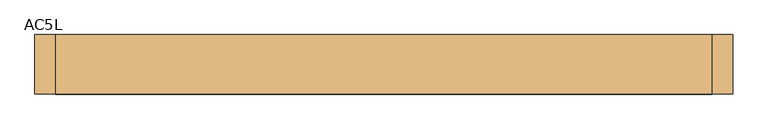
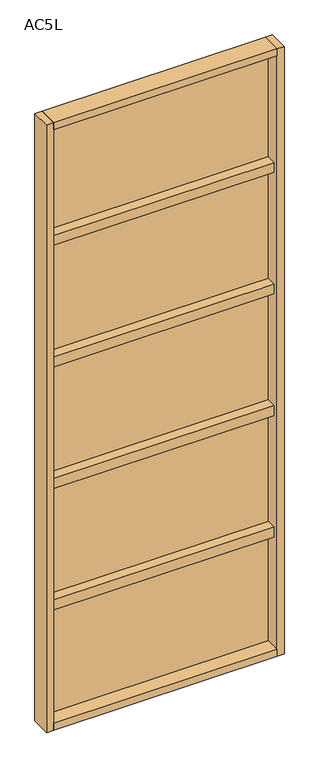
"""IFC4 building model written with IfcOpenShell, lengths in millimetres: door geometry, Mobiliário_Mobiliário de Escritório_Painel Lambri - AC5L (Completo)_Marelli : AC5L."""

import ifcopenshell
import ifcopenshell.guid

model = None  # the IFC model being written
_history = None  # IfcOwnerHistory: only IFC2X3 demands one
_inside = {}  # id of a spatial element -> (the spatial element, [elements in it])
_under = {}  # id of a project, library or spatial element -> (it, [spatial elements below it])
_declared = {}  # id of a project -> (the project, [libraries it declares])
_typed = {}  # id of a type object -> (the type object, [elements of that type])
_made_of = {}  # id of a material, layer set ... -> (it, [elements and type objects made of it])


def new_model(schema):
    """Start an empty IFC model of exactly this schema.

    Asked for "IFC4X3", IfcOpenShell would pick the latest addendum, in which some entities
    have other attributes; the version numbers below select the first issue.
    IFC2X3 requires an IfcOwnerHistory on every rooted entity: one is made here for all.
    """
    global model, _history
    if schema == "IFC4X3":
        model = ifcopenshell.file(schema_version=(4, 3, 0, 0))
    else:
        model = ifcopenshell.file(schema=schema)
    _inside.clear()
    _under.clear()
    _declared.clear()
    _typed.clear()
    _made_of.clear()
    _history = None
    if model.schema == "IFC2X3":
        org = make("IfcOrganization", Name="unknown")
        user = make(
            "IfcPersonAndOrganization",
            ThePerson=make("IfcPerson", FamilyName="unknown"),
            TheOrganization=org,
        )
        app = make(
            "IfcApplication",
            ApplicationDeveloper=org,
            Version="unknown",
            ApplicationFullName="unknown",
            ApplicationIdentifier="unknown",
        )
        _history = make(
            "IfcOwnerHistory",
            OwningUser=user,
            OwningApplication=app,
            ChangeAction="ADDED",
            CreationDate=0,
        )
    return model


def make(cls, **values):
    """One entity of the class cls with the attributes given. An attribute that is None is left unset."""
    return model.create_entity(
        cls, **{name: value for name, value in values.items() if value is not None}
    )


def rooted(cls, **values):
    """An entity with a GlobalId (a new one), such as an element, a storey or a relation."""
    return make(cls, GlobalId=ifcopenshell.guid.new(), OwnerHistory=_history, **values)


def si_unit(unit_type, name, prefix=None):
    """IfcSIUnit, for example si_unit("LENGTHUNIT", "METRE", prefix="MILLI")."""
    return make("IfcSIUnit", UnitType=unit_type, Prefix=prefix, Name=name)


def assignment(units):
    """IfcUnitAssignment: the units of a project."""
    return None if units is None else make("IfcUnitAssignment", Units=units)


def point(xyz):
    """IfcCartesianPoint."""
    return None if xyz is None else make("IfcCartesianPoint", Coordinates=xyz)


def direction(xyz):
    """IfcDirection."""
    return None if xyz is None else make("IfcDirection", DirectionRatios=xyz)


def frame(location, z_axis=None, x_axis=None):
    """IfcAxis2Placement3D, a coordinate frame: its origin and axes. An axis left out is left unset."""
    return make(
        "IfcAxis2Placement3D",
        Location=point(location),
        Axis=direction(z_axis),
        RefDirection=direction(x_axis),
    )


def origin():
    """The frame at (0, 0, 0) with its axes left unset."""
    return frame((0.0, 0.0, 0.0))


def origin_with_axes():
    """The frame at (0, 0, 0) with the z axis (0, 0, 1) and the x axis (1, 0, 0) written out."""
    return frame((0.0, 0.0, 0.0), z_axis=(0.0, 0.0, 1.0), x_axis=(1.0, 0.0, 0.0))


def place(relative_to, where):
    """IfcLocalPlacement: puts the frame where relative to a parent placement (None: the world)."""
    return make(
        "IfcLocalPlacement", PlacementRelTo=relative_to, RelativePlacement=where
    )


def context(
    kind, dimensions, precision=None, world=None, true_north=None, identifier=None
):
    """IfcGeometricRepresentationContext, for example the 3D "Model" context."""
    return make(
        "IfcGeometricRepresentationContext",
        ContextIdentifier=identifier,
        ContextType=kind,
        CoordinateSpaceDimension=dimensions,
        Precision=precision,
        WorldCoordinateSystem=world,
        TrueNorth=true_north,
    )


def project(units=None, contexts=None):
    """IfcProject with its units and contexts."""
    return rooted(
        "IfcProject",
        Name="project",
        RepresentationContexts=contexts,
        UnitsInContext=assignment(units),
    )


def spatial(cls, under=None, at=None, **own):
    """A site, building, storey or space (cls), placed at a placement, below another one or the project."""
    s = rooted(cls, ObjectPlacement=at, **own)
    if under is not None:
        _under.setdefault(under.id(), (under, []))[1].append(s)
    return s


def polyline(points):
    """IfcPolyline through the points."""
    return make("IfcPolyline", Points=[point(p) for p in points])


def outline(outer, holes=None, kind="AREA"):
    """IfcArbitraryClosedProfileDef: a profile drawn as a closed curve; with holes, ...WithVoids."""
    if holes is None:
        return make("IfcArbitraryClosedProfileDef", ProfileType=kind, OuterCurve=outer)
    return make(
        "IfcArbitraryProfileDefWithVoids",
        ProfileType=kind,
        OuterCurve=outer,
        InnerCurves=holes,
    )


def extrude(swept, where, along, depth):
    """IfcExtrudedAreaSolid: the profile swept, set in the frame where, extruded along a direction by depth."""
    return make(
        "IfcExtrudedAreaSolid",
        SweptArea=swept,
        Position=where,
        ExtrudedDirection=direction(along),
        Depth=depth,
    )


def shape(context_of_items, identifier, shape_type, items):
    """IfcShapeRepresentation: the items that make up one representation, for example the "Body"."""
    return make(
        "IfcShapeRepresentation",
        ContextOfItems=context_of_items,
        RepresentationIdentifier=identifier,
        RepresentationType=shape_type,
        Items=items,
    )


def source(mapping_origin, context_of_items, identifier, shape_type, items):
    """IfcRepresentationMap: a shape defined once, which mapped items show again and again."""
    return make(
        "IfcRepresentationMap",
        MappingOrigin=mapping_origin,
        MappedRepresentation=shape(context_of_items, identifier, shape_type, items),
    )


def transform(
    local_origin,
    x_axis=None,
    y_axis=None,
    z_axis=None,
    scale=None,
    scale2=None,
    scale3=None,
    uniform=True,
):
    """IfcCartesianTransformationOperator3D, or its non-uniform kind. x_axis, y_axis, z_axis: its Axis1, 2, 3."""
    if uniform:
        return make(
            "IfcCartesianTransformationOperator3D",
            Axis1=direction(x_axis),
            Axis2=direction(y_axis),
            LocalOrigin=point(local_origin),
            Scale=scale,
            Axis3=direction(z_axis),
        )
    return make(
        "IfcCartesianTransformationOperator3DnonUniform",
        Axis1=direction(x_axis),
        Axis2=direction(y_axis),
        LocalOrigin=point(local_origin),
        Scale=scale,
        Axis3=direction(z_axis),
        Scale2=scale2,
        Scale3=scale3,
    )


def mapped(mapping_source, mapping_target):
    """IfcMappedItem: shows the shape of a source again, moved by a transform."""
    return make(
        "IfcMappedItem", MappingSource=mapping_source, MappingTarget=mapping_target
    )


def made_of(thing, what):
    """Note that an element or type object is made of a material, layer set ...; save() writes the relation."""
    if what is not None:
        _made_of.setdefault(what.id(), (what, []))[1].append(thing)
    return thing


def element(
    cls,
    number,
    at=None,
    inside=None,
    cuts=None,
    type_object=None,
    material=None,
    context=None,
    identifier="Body",
    shape_type=None,
    held_by="IfcProductDefinitionShape",
    body=None,
    shapes=None,
    **own,
):
    """One element of the class cls, such as IfcWall. Its Tag is "e" and its number.

    at: its placement. inside: the storey or other place that contains it. cuts: it is an
    opening in that element (IfcRelVoidsElement). A single representation is given by context,
    identifier, shape_type and body (its items); several are given by shapes. held_by: the class
    of the entity that holds the representations. save() writes the other relations.
    """
    e = rooted(cls, Tag="e%d" % number, ObjectPlacement=at, **own)
    if body is not None:
        shapes = [shape(context, identifier, shape_type, body)]
    if shapes is not None:
        e.Representation = make(held_by, Representations=shapes)
    if inside is not None:
        _inside.setdefault(inside.id(), (inside, []))[1].append(e)
    if cuts is not None:
        rooted(
            "IfcRelVoidsElement", RelatingBuildingElement=cuts, RelatedOpeningElement=e
        )
    if type_object is not None:
        _typed.setdefault(type_object.id(), (type_object, []))[1].append(e)
    return made_of(e, material)


def aggregate(whole, parts):
    """IfcRelAggregates: a whole, such as a stair, and the parts it consists of."""
    return rooted("IfcRelAggregates", RelatingObject=whole, RelatedObjects=parts)


def save(model, path):
    """Write the relations noted so far, then the file.

    IfcRelAggregates (storeys below a building ...), IfcRelContainedInSpatialStructure (elements
    in a storey), IfcRelDefinesByType, IfcRelAssociatesMaterial and IfcRelDeclares: one each for
    every whole, place, type object, material and project.
    """
    for whole, parts in _under.values():
        aggregate(whole, parts)
    for where, things in _inside.values():
        rooted(
            "IfcRelContainedInSpatialStructure",
            RelatedElements=things,
            RelatingStructure=where,
        )
    for kind, things in _typed.values():
        rooted("IfcRelDefinesByType", RelatedObjects=things, RelatingType=kind)
    for what, things in _made_of.values():
        rooted("IfcRelAssociatesMaterial", RelatedObjects=things, RelatingMaterial=what)
    for by, libraries in _declared.values():
        rooted("IfcRelDeclares", RelatingContext=by, RelatedDefinitions=libraries)
    model.write(path)


def ac5l_27aba7ac(model_context):
    return source(origin(), model_context, "Body", "SweptSolid", [
        extrude(outline(polyline([(470.0, 42.5), (470.0, -42.5), (-470.0, -42.5), (-470.0, 42.5), (470.0, 42.5)])), origin_with_axes(), (0.0, 0.0, 1.0), 30.0),
        extrude(outline(polyline([(470.0, 39.5), (470.0, 21.5), (-470.0, 21.5), (-470.0, 39.5), (470.0, 39.5)])), frame((0.0, 0.0, 30.0), z_axis=(0.0, 0.0, 1.0), x_axis=(1.0, 0.0, 0.0)), (0.0, 0.0, 1.0), 505.0),
        extrude(outline(polyline([(470.0, 21.5), (470.0, -21.5), (-470.0, -21.5), (-470.0, 21.5), (470.0, 21.5)])), frame((0.0, 0.0, 518.5), z_axis=(0.0, 0.0, 1.0), x_axis=(1.0, 0.0, 0.0)), (0.0, 0.0, 1.0), 43.0),
        extrude(outline(polyline([(470.0, 21.5), (470.0, -21.5), (-470.0, -21.5), (-470.0, 21.5), (470.0, 21.5)])), frame((0.0, 0.0, 1058.5), z_axis=(0.0, 0.0, 1.0), x_axis=(1.0, 0.0, 0.0)), (0.0, 0.0, 1.0), 43.0),
        extrude(outline(polyline([(470.0, 39.5), (470.0, 21.5), (-470.0, 21.5), (-470.0, 39.5), (470.0, 39.5)])), frame((0.0, 0.0, 545.0), z_axis=(0.0, 0.0, 1.0), x_axis=(1.0, 0.0, 0.0)), (0.0, 0.0, 1.0), 530.0),
        extrude(outline(polyline([(470.0, 42.5), (470.0, -42.5), (-470.0, -42.5), (-470.0, 42.5), (470.0, 42.5)])), frame((0.0, 0.0, 2670.0), z_axis=(0.0, 0.0, 1.0), x_axis=(1.0, 0.0, 0.0)), (0.0, 0.0, 1.0), 30.0),
        extrude(outline(polyline([(470.0, 39.5), (470.0, 21.5), (-470.0, 21.5), (-470.0, 39.5), (470.0, 39.5)])), frame((0.0, 0.0, 1625.0), z_axis=(0.0, 0.0, 1.0), x_axis=(1.0, 0.0, 0.0)), (0.0, 0.0, 1.0), 530.0),
        extrude(outline(polyline([(470.0, 21.5), (470.0, -21.5), (-470.0, -21.5), (-470.0, 21.5), (470.0, 21.5)])), frame((0.0, 0.0, 2138.5), z_axis=(0.0, 0.0, 1.0), x_axis=(1.0, 0.0, 0.0)), (0.0, 0.0, 1.0), 43.0),
        extrude(outline(polyline([(470.0, 21.5), (470.0, -21.5), (-470.0, -21.5), (-470.0, 21.5), (470.0, 21.5)])), frame((0.0, 0.0, 1598.5), z_axis=(0.0, 0.0, 1.0), x_axis=(1.0, 0.0, 0.0)), (0.0, 0.0, 1.0), 43.0),
        extrude(outline(polyline([(-500.0, -42.5), (-500.0, 42.5), (-470.0, 42.5), (-470.0, -42.5), (-500.0, -42.5)])), origin_with_axes(), (0.0, 0.0, 1.0), 2700.0),
        extrude(outline(polyline([(500.0, -42.5), (470.0, -42.5), (470.0, 42.5), (500.0, 42.5), (500.0, -42.5)])), origin_with_axes(), (0.0, 0.0, 1.0), 2700.0),
        extrude(outline(polyline([(470.0, 39.5), (470.0, 21.5), (-470.0, 21.5), (-470.0, 39.5), (470.0, 39.5)])), frame((0.0, 0.0, 2165.0), z_axis=(0.0, 0.0, 1.0), x_axis=(1.0, 0.0, 0.0)), (0.0, 0.0, 1.0), 505.0),
        extrude(outline(polyline([(470.0, 39.5), (470.0, 21.5), (-470.0, 21.5), (-470.0, 39.5), (470.0, 39.5)])), frame((0.0, 0.0, 1085.0), z_axis=(0.0, 0.0, 1.0), x_axis=(1.0, 0.0, 0.0)), (0.0, 0.0, 1.0), 530.0),
    ])


if __name__ == "__main__":
    model = new_model("IFC4")
    model_context = context("Model", 3, world=origin())
    ifc_project = project(units=[si_unit("LENGTHUNIT", "METRE", prefix="MILLI")], contexts=[model_context])
    site = spatial("IfcSite", under=ifc_project)
    building = spatial("IfcBuilding", under=site)
    placement = place(None, origin())
    ac5l_shape = ac5l_27aba7ac(model_context)
    element("IfcDoor", 1, ObjectType="Mobiliário_Mobiliário de Escritório_Painel Lambri - AC5L (Completo)_Marelli : AC5L", at=placement, inside=building, context=model_context, shape_type="MappedRepresentation", body=[
        mapped(ac5l_shape, transform((0.0, 0.0, 0.0), x_axis=(1.0, 0.0, 0.0), y_axis=(0.0, 1.0, 0.0), z_axis=(0.0, 0.0, 1.0))),
    ])
    save(model, "model.ifc")
